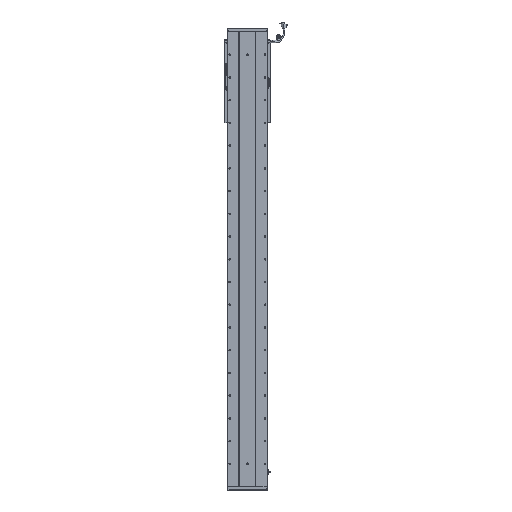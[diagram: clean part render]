
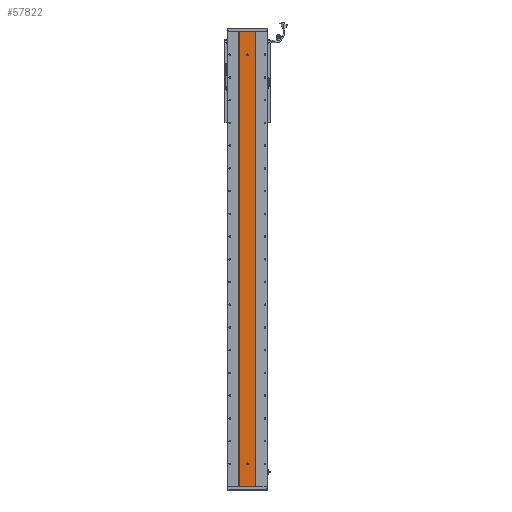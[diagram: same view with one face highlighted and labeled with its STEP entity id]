
A CAD part, front view. The second image highlights one B-rep face of the part: STEP entity #57822.
In plain terms, the highlighted planar face has unit normal (0, -1, 0).
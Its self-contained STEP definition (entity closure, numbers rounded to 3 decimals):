
#234 = ORIENTED_EDGE ( 'NONE', *, *, #30533, .F. ) ;
#2065 = CARTESIAN_POINT ( 'NONE',  ( 3244.748, 1415.701, 2002. ) ) ;
#4093 = CARTESIAN_POINT ( 'NONE',  ( 3280.529, 1415.701, 1901. ) ) ;
#4158 = VECTOR ( 'NONE', #114839, 1000. ) ;
#5434 = LINE ( 'NONE', #42261, #34727 ) ;
#6085 = DIRECTION ( 'NONE',  ( 1., 0., 0. ) ) ;
#7142 = DIRECTION ( 'NONE',  ( 0., 0., 1. ) ) ;
#7751 = EDGE_LOOP ( 'NONE', ( #23332, #111796, #80103, #76065 ) ) ;
#8171 = VERTEX_POINT ( 'NONE', #24719 ) ;
#9484 = ORIENTED_EDGE ( 'NONE', *, *, #113753, .F. ) ;
#9913 = CARTESIAN_POINT ( 'NONE',  ( 3277.529, 1415.701, 102.5 ) ) ;
#11916 = CARTESIAN_POINT ( 'NONE',  ( 3280.529, 1415.701, 1901. ) ) ;
#12196 = FACE_BOUND ( 'NONE', #109422, .T. ) ;
#12638 = CARTESIAN_POINT ( 'NONE',  ( 3280.529, 1415.701, 99.5 ) ) ;
#13660 = FACE_BOUND ( 'NONE', #92452, .T. ) ;
#14645 = LINE ( 'NONE', #95316, #103645 ) ;
#16065 = CARTESIAN_POINT ( 'NONE',  ( 3244.748, 1415.701, 2002. ) ) ;
#16973 = CARTESIAN_POINT ( 'NONE',  ( 3244.748, 1415.701, 0. ) ) ;
#18842 = AXIS2_PLACEMENT_3D ( 'NONE', #16065, #34382, #7142 ) ;
#19399 = LINE ( 'NONE', #40216, #100015 ) ;
#19593 = LINE ( 'NONE', #9913, #4158 ) ;
#20529 = VERTEX_POINT ( 'NONE', #29367 ) ;
#21240 = DIRECTION ( 'NONE',  ( 0., 0., -1. ) ) ;
#23332 = ORIENTED_EDGE ( 'NONE', *, *, #61766, .T. ) ;
#24719 = CARTESIAN_POINT ( 'NONE',  ( 3280.529, 1415.701, 96.5 ) ) ;
#24964 = DIRECTION ( 'NONE',  ( 0., 0., -1. ) ) ;
#26393 = CIRCLE ( 'NONE', #53491, 3. ) ;
#27388 = ORIENTED_EDGE ( 'NONE', *, *, #63360, .F. ) ;
#29367 = CARTESIAN_POINT ( 'NONE',  ( 3280.529, 1415.701, 1898. ) ) ;
#29773 = VERTEX_POINT ( 'NONE', #89080 ) ;
#30533 = EDGE_CURVE ( 'NONE', #20529, #102705, #89793, .T. ) ;
#31507 = VERTEX_POINT ( 'NONE', #74210 ) ;
#33249 = AXIS2_PLACEMENT_3D ( 'NONE', #4093, #111734, #103596 ) ;
#34382 = DIRECTION ( 'NONE',  ( 0., 1., 0. ) ) ;
#34727 = VECTOR ( 'NONE', #6085, 1000. ) ;
#35233 = DIRECTION ( 'NONE',  ( 0., -1., 0. ) ) ;
#39107 = AXIS2_PLACEMENT_3D ( 'NONE', #101978, #57314, #102742 ) ;
#40216 = CARTESIAN_POINT ( 'NONE',  ( 3283.529, 1415.701, 102.5 ) ) ;
#40402 = VERTEX_POINT ( 'NONE', #2065 ) ;
#41572 = EDGE_CURVE ( 'NONE', #88098, #99404, #44743, .T. ) ;
#42261 = CARTESIAN_POINT ( 'NONE',  ( 3244.748, 1415.701, 0. ) ) ;
#42966 = CARTESIAN_POINT ( 'NONE',  ( 3316.311, 1415.701, 2002. ) ) ;
#44743 = LINE ( 'NONE', #42966, #97456 ) ;
#46570 = ORIENTED_EDGE ( 'NONE', *, *, #60810, .F. ) ;
#47713 = CARTESIAN_POINT ( 'NONE',  ( 3283.529, 1415.701, 102.5 ) ) ;
#48390 = DIRECTION ( 'NONE',  ( 0., 0., 1. ) ) ;
#49234 = DIRECTION ( 'NONE',  ( 0., -1., 0. ) ) ;
#49548 = EDGE_CURVE ( 'NONE', #61741, #55306, #80342, .T. ) ;
#50870 = CARTESIAN_POINT ( 'NONE',  ( 3244.748, 1415.701, 2002. ) ) ;
#52095 = EDGE_CURVE ( 'NONE', #40402, #80425, #14645, .T. ) ;
#53491 = AXIS2_PLACEMENT_3D ( 'NONE', #105144, #35233, #97003 ) ;
#55306 = VERTEX_POINT ( 'NONE', #100940 ) ;
#55648 = EDGE_CURVE ( 'NONE', #55306, #29773, #19593, .T. ) ;
#57314 = DIRECTION ( 'NONE',  ( 0., -1., 0. ) ) ;
#57822 = ADVANCED_FACE ( 'NONE', ( #13660, #12196, #95695 ), #61197, .F. ) ;
#60726 = CIRCLE ( 'NONE', #86273, 3. ) ;
#60810 = EDGE_CURVE ( 'NONE', #31507, #61741, #19399, .T. ) ;
#60966 = AXIS2_PLACEMENT_3D ( 'NONE', #11916, #74842, #21240 ) ;
#61197 = PLANE ( 'NONE',  #18842 ) ;
#61741 = VERTEX_POINT ( 'NONE', #47713 ) ;
#61766 = EDGE_CURVE ( 'NONE', #80425, #99404, #5434, .T. ) ;
#63360 = EDGE_CURVE ( 'NONE', #29773, #8171, #60726, .T. ) ;
#63912 = CARTESIAN_POINT ( 'NONE',  ( 3316.311, 1415.701, 2002. ) ) ;
#68305 = DIRECTION ( 'NONE',  ( 1., 0., 0. ) ) ;
#74210 = CARTESIAN_POINT ( 'NONE',  ( 3283.529, 1415.701, 99.5 ) ) ;
#74842 = DIRECTION ( 'NONE',  ( 0., -1., 0. ) ) ;
#76065 = ORIENTED_EDGE ( 'NONE', *, *, #52095, .T. ) ;
#78995 = VECTOR ( 'NONE', #68305, 1000. ) ;
#80103 = ORIENTED_EDGE ( 'NONE', *, *, #80297, .F. ) ;
#80297 = EDGE_CURVE ( 'NONE', #40402, #88098, #102643, .T. ) ;
#80342 = CIRCLE ( 'NONE', #39107, 3. ) ;
#80425 = VERTEX_POINT ( 'NONE', #16973 ) ;
#83805 = CARTESIAN_POINT ( 'NONE',  ( 3316.311, 1415.701, 0. ) ) ;
#84942 = DIRECTION ( 'NONE',  ( 0., 0., -1. ) ) ;
#86273 = AXIS2_PLACEMENT_3D ( 'NONE', #12638, #49234, #84942 ) ;
#88098 = VERTEX_POINT ( 'NONE', #63912 ) ;
#89080 = CARTESIAN_POINT ( 'NONE',  ( 3277.529, 1415.701, 99.5 ) ) ;
#89793 = CIRCLE ( 'NONE', #60966, 3. ) ;
#92452 = EDGE_LOOP ( 'NONE', ( #27388, #113968, #101962, #46570, #110030 ) ) ;
#95316 = CARTESIAN_POINT ( 'NONE',  ( 3244.748, 1415.701, 2002. ) ) ;
#95695 = FACE_OUTER_BOUND ( 'NONE', #7751, .T. ) ;
#96604 = DIRECTION ( 'NONE',  ( 0., 0., -1. ) ) ;
#96906 = CARTESIAN_POINT ( 'NONE',  ( 3280.529, 1415.701, 1904. ) ) ;
#97003 = DIRECTION ( 'NONE',  ( 0., 0., -1. ) ) ;
#97456 = VECTOR ( 'NONE', #96604, 1000. ) ;
#99404 = VERTEX_POINT ( 'NONE', #83805 ) ;
#100015 = VECTOR ( 'NONE', #48390, 1000. ) ;
#100940 = CARTESIAN_POINT ( 'NONE',  ( 3277.529, 1415.701, 102.5 ) ) ;
#101962 = ORIENTED_EDGE ( 'NONE', *, *, #49548, .F. ) ;
#101978 = CARTESIAN_POINT ( 'NONE',  ( 3280.529, 1415.701, 102.5 ) ) ;
#102643 = LINE ( 'NONE', #50870, #78995 ) ;
#102705 = VERTEX_POINT ( 'NONE', #96906 ) ;
#102742 = DIRECTION ( 'NONE',  ( 0., 0., -1. ) ) ;
#103596 = DIRECTION ( 'NONE',  ( 0., 0., -1. ) ) ;
#103645 = VECTOR ( 'NONE', #24964, 1000. ) ;
#105144 = CARTESIAN_POINT ( 'NONE',  ( 3280.529, 1415.701, 99.5 ) ) ;
#107511 = CIRCLE ( 'NONE', #33249, 3. ) ;
#109422 = EDGE_LOOP ( 'NONE', ( #234, #9484 ) ) ;
#110030 = ORIENTED_EDGE ( 'NONE', *, *, #115291, .F. ) ;
#111734 = DIRECTION ( 'NONE',  ( 0., -1., 0. ) ) ;
#111796 = ORIENTED_EDGE ( 'NONE', *, *, #41572, .F. ) ;
#113753 = EDGE_CURVE ( 'NONE', #102705, #20529, #107511, .T. ) ;
#113968 = ORIENTED_EDGE ( 'NONE', *, *, #55648, .F. ) ;
#114839 = DIRECTION ( 'NONE',  ( 0., 0., -1. ) ) ;
#115291 = EDGE_CURVE ( 'NONE', #8171, #31507, #26393, .T. ) ;
